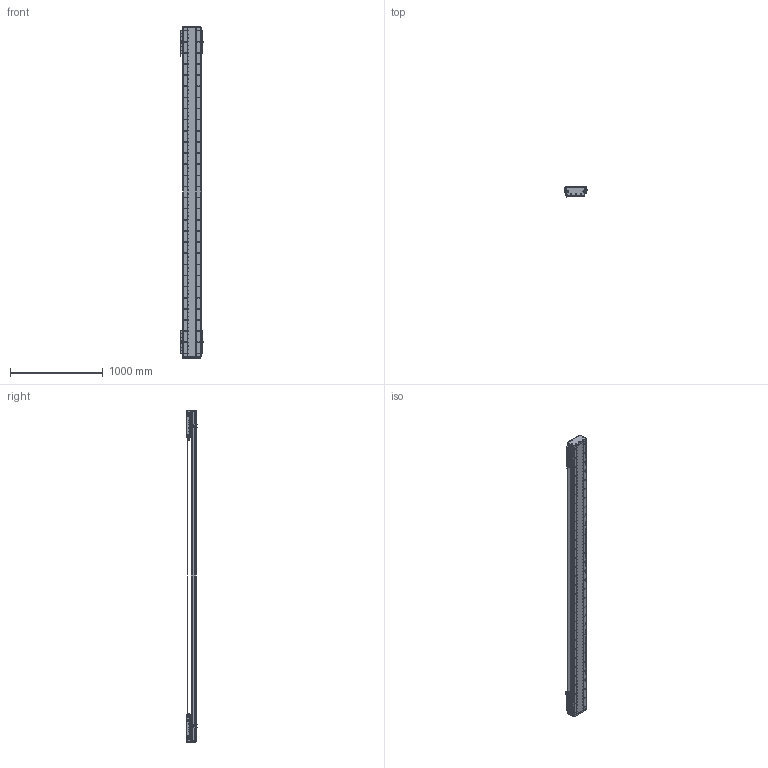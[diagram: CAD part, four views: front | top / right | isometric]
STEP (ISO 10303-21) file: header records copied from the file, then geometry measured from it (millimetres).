
FILE_DESCRIPTION (( 'STEP AP203' ), '1' );
FILE_NAME ('DA-C195-2-C3-T2960-C010-0.2 眻盄萇儂.STEP', '2025-08-15T00:53:23', ( '' ), ( '' ), 'SwSTEP 2.0', 'SolidWorks 2019', '' );
FILE_SCHEMA (( 'CONFIG_CONTROL_DESIGN' ));
Length unit declared in the file: millimetre
Products named in the file (19): DKW-KGZ-ZJ-00 中间光电开关支架; PM-T45ㄗ侂狟ㄘ; MS200 棠掑喜S315-T240; IU-CU195-L-00 菁釱(L3540); DA195詩湍菜輸; DA-C195-GD-DB-H-00 傷啣; DA95-HXJ-00 遣喳砎蝶; DKW168-HXJ-ZJ-00 笢潔滅袉砎蝶; DA195詩湍郪璃; DA195詩湍嶺輸; PM-Y65嫖萇羲壽郪璃; LMT黍杅芛; DA165-GYP-00 光电感应片(默认); IU-CU195-L 菁釱絳寢; DA-C195-2-C3-T2960-C010-0.2 眻盄萇儂; 葩璃 DA95-GT-T-00; DKW-GYP-ZJ-00 笢潔嫖萇覜茼え; CU195-C3賑輸-俋楷; DA195詩湍裔啣
Assembly tree (37 placements, depth 3):
  DA-C195-2-C3-T2960-C010-0.2 眻盄萇儂
    DA195詩湍郪璃
      DA195詩湍菜輸  x2
      DA195詩湍裔啣
      DA195詩湍嶺輸  x2
      DA95-HXJ-00 遣喳砎蝶  x8
      DA-C195-GD-DB-H-00 傷啣  x2
    IU-CU195-L 菁釱絳寢
      IU-CU195-L-00 菁釱(L3540)
      葩璃 DA95-GT-T-00  x4
    LMT黍杅芛  x2
    MS200 棠掑喜S315-T240
    PM-T45ㄗ侂狟ㄘ  x4
    DA165-GYP-00 光电感应片(默认)  x2
    PM-Y65嫖萇羲壽郪璃
    DKW168-HXJ-ZJ-00 笢潔滅袉砎蝶
    DKW-GYP-ZJ-00 笢潔嫖萇覜茼え
    DKW-KGZ-ZJ-00 中间光电开关支架
    CU195-C3賑輸-俋楷  x2
Bounding box: 258.2 x 115.45 x 3580 mm (x, y, z)
Volume: 21851576.2 mm3; surface area: 6369591.7 mm2
Topology: 154 solids, 218 shells, 7301 faces, 20007 edges, 12533 vertices
Faces by surface type: cylinder 3682, plane 2567, cone 884, torus 88, sphere 72, bspline 8
Entity records: 171071 total; most frequent: CARTESIAN_POINT 48469, ORIENTED_EDGE 26030, DIRECTION 24184, EDGE_CURVE 13015, AXIS2_PLACEMENT_3D 8941, VERTEX_POINT 8458, VECTOR 6302, LINE 6302
